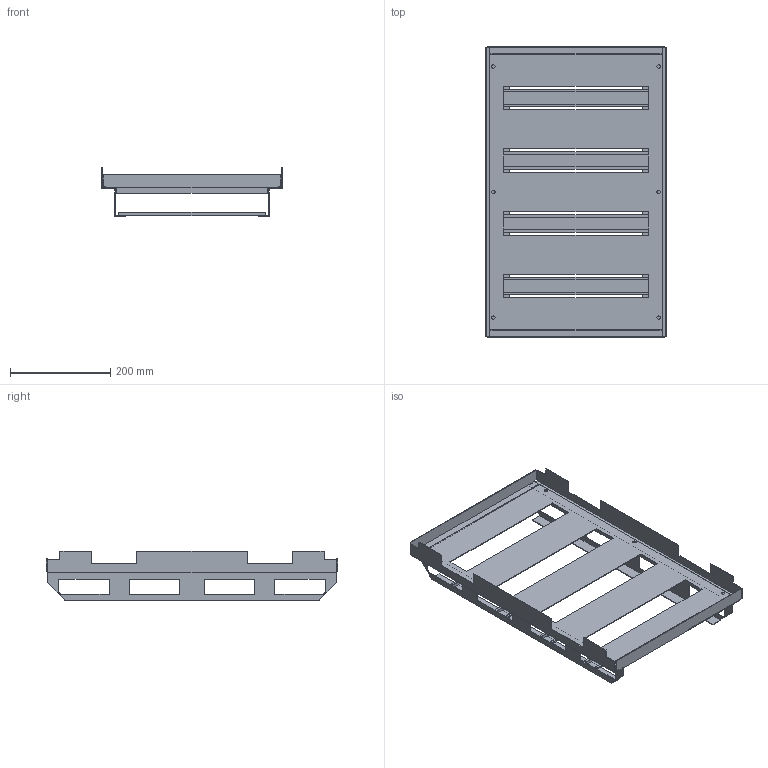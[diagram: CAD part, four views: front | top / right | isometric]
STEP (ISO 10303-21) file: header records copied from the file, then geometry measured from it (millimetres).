
FILE_DESCRIPTION( ( 'STEP AP214' ), '1' );
FILE_NAME( 'p:/temp/worker_97/temp/exporttempdir_1600_200_Th0k6/format_0/AC06040R5(0).stp', '2021-03-15T11:52:42', ( 'License CC BY-ND 4.0' ), ( 'CADENAS' ), ' ', 'PARTsolutions', ' ' );
FILE_SCHEMA( ( 'AUTOMOTIVE_DESIGN { 1 0 10303 214 1 1 1 1 }' ) );
Length unit declared in the file: millimetre
Products named in the file (5): AC06040R5(0); _AC06040R5(0)_P2; _AC600(0); _MC 400-H(0); _AC06040R5(0)_P1
Assembly tree (9 placements, depth 2):
  AC06040R5(0)
    _AC06040R5(0)_P2
    _AC600(0)  x2
    _MC 400-H(0)  x2
    _AC06040R5(0)_P1  x4
Bounding box: 360 x 580 x 98 mm (x, y, z)
Volume: 507892.4 mm3; surface area: 734142.3 mm2
Topology: 9 solids, 9 shells, 224 faces, 618 edges, 412 vertices
Faces by surface type: plane 214, cylinder 10
Full cylindrical faces by diameter (mm): 6.5 x6
Entity records: 4826 total; most frequent: CARTESIAN_POINT 672, ORIENTED_EDGE 648, DIRECTION 596, EDGE_CURVE 324, LINE 308, VECTOR 308, VERTEX_POINT 220, EDGE_LOOP 152
